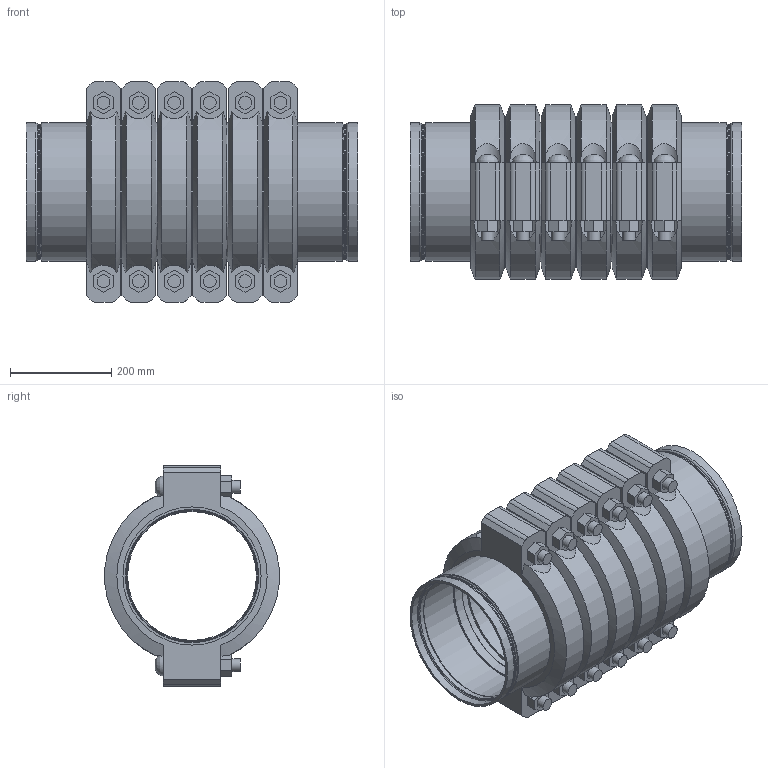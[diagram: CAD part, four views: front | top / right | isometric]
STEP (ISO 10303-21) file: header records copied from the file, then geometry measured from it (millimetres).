
FILE_DESCRIPTION(/* description */ ('VIC STRENGTHIN 100 EXPANSION JOINT 6 COUPLINGS COMPRESSED STYLE E155 (ST1)','CAx-IF Rec.Pracs.---Representation and Presentation of Product Manufacturing Information (PMI)---4.0---2014-10-13'),/* implementation_level */ '2;1');
FILE_NAME(/* name */ 'C:\Users\Vjadhav\AppData\Roaming\Autodesk\ApplicationPlugins\Victaulic.Temp\A634\Victaulic_SS-StrengThin 100_Expansion Joint_Compressed_6 Couplings_Style E155 (ST1)_10 (250).stp',/* time_stamp */ '2021-07-23T12:34:04+05:00',/* author */ ('kkamble'),/* organization */ ('Victaulic'),/* preprocessor_version */ 'ST-DEVELOPER v17.2',/* originating_system */ 'Autodesk Inventor 2019',/* authorisation */ '');
FILE_SCHEMA (('AP242_MANAGED_MODEL_BASED_3D_ENGINEERING_MIM_LF { 1 0 10303 442 1 1 4 }'));
Length unit declared in the file: inch
Products named in the file (4): E155-10.0; E494G-10.0; Nipple-10.0; 077-10.0
Assembly tree (13 placements, depth 2):
  E155-10.0
    E494G-10.0  x2
    Nipple-10.0  x5
    077-10.0  x6
Bounding box: 654.81 x 344.9 x 435.1 mm (x, y, z)
Volume: 21274330.4 mm3; surface area: 2883920.3 mm2
Topology: 13 solids, 25 shells, 472 faces, 1214 edges, 858 vertices
Faces by surface type: plane 248, cylinder 152, torus 32, cone 28, bspline 12
Full cylindrical faces by diameter (mm): 25.4 x24, 27.432 x12, 254.508 x5, 255.626 x2, 258.724 x2, 263.5 x6, 265.176 x2, 268.275 x12, 273.05 x27
Entity records: 3986 total; most frequent: CARTESIAN_POINT 834, DIRECTION 673, ORIENTED_EDGE 568, AXIS2_PLACEMENT_3D 290, EDGE_CURVE 284, VERTEX_POINT 205, CIRCLE 171, EDGE_LOOP 129
